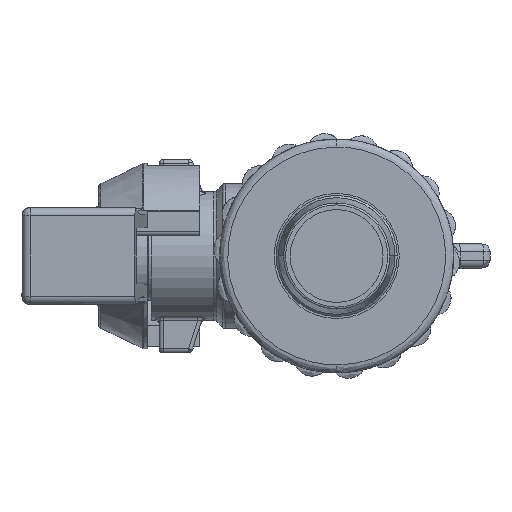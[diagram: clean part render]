
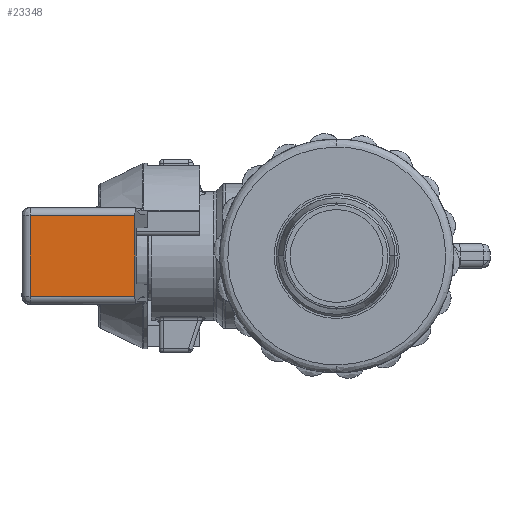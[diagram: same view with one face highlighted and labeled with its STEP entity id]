
A CAD part, left-side view. The second image highlights one B-rep face of the part: STEP entity #23348.
In plain terms, the highlighted planar face has unit normal (-1, 0, 0).
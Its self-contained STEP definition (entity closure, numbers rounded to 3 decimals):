
#300 = DIRECTION ( 'NONE',  ( -1., 0., 0. ) ) ;
#309 = ORIENTED_EDGE ( 'NONE', *, *, #13631, .T. ) ;
#334 = VECTOR ( 'NONE', #11993, 1000. ) ;
#1585 = EDGE_CURVE ( 'NONE', #36426, #8449, #35823, .T. ) ;
#5008 = ORIENTED_EDGE ( 'NONE', *, *, #1585, .T. ) ;
#6395 = CARTESIAN_POINT ( 'NONE',  ( -35., 25., -5. ) ) ;
#7574 = EDGE_CURVE ( 'NONE', #8449, #46658, #48517, .T. ) ;
#8449 = VERTEX_POINT ( 'NONE', #15679 ) ;
#8998 = PLANE ( 'NONE',  #34278 ) ;
#11993 = DIRECTION ( 'NONE',  ( 0., 1., 0. ) ) ;
#12228 = CARTESIAN_POINT ( 'NONE',  ( -35., 38., -5. ) ) ;
#13631 = EDGE_CURVE ( 'NONE', #46658, #52508, #33562, .T. ) ;
#15679 = CARTESIAN_POINT ( 'NONE',  ( -35., 38., 5. ) ) ;
#15900 = EDGE_LOOP ( 'NONE', ( #25310, #5008, #51578, #309 ) ) ;
#18114 = VECTOR ( 'NONE', #25542, 1000. ) ;
#21046 = CARTESIAN_POINT ( 'NONE',  ( -35., 25., 0. ) ) ;
#22472 = CARTESIAN_POINT ( 'NONE',  ( -35., 25., 5. ) ) ;
#23348 = ADVANCED_FACE ( 'NONE', ( #45129 ), #8998, .T. ) ;
#23490 = VECTOR ( 'NONE', #33157, 1000. ) ;
#25310 = ORIENTED_EDGE ( 'NONE', *, *, #42589, .F. ) ;
#25542 = DIRECTION ( 'NONE',  ( 0., 0., -1. ) ) ;
#26951 = CARTESIAN_POINT ( 'NONE',  ( -35., 25., 0. ) ) ;
#31430 = DIRECTION ( 'NONE',  ( 0., 0., 1. ) ) ;
#33157 = DIRECTION ( 'NONE',  ( 0., 0., -1. ) ) ;
#33562 = LINE ( 'NONE', #6395, #45319 ) ;
#34278 = AXIS2_PLACEMENT_3D ( 'NONE', #26951, #300, #31430 ) ;
#35823 = LINE ( 'NONE', #56305, #334 ) ;
#36426 = VERTEX_POINT ( 'NONE', #22472 ) ;
#42589 = EDGE_CURVE ( 'NONE', #36426, #52508, #43132, .T. ) ;
#43132 = LINE ( 'NONE', #21046, #18114 ) ;
#45129 = FACE_OUTER_BOUND ( 'NONE', #15900, .T. ) ;
#45319 = VECTOR ( 'NONE', #50911, 1000. ) ;
#46658 = VERTEX_POINT ( 'NONE', #12228 ) ;
#46694 = CARTESIAN_POINT ( 'NONE',  ( -35., 25., -5. ) ) ;
#48517 = LINE ( 'NONE', #55235, #23490 ) ;
#50911 = DIRECTION ( 'NONE',  ( 0., -1., 0. ) ) ;
#51578 = ORIENTED_EDGE ( 'NONE', *, *, #7574, .T. ) ;
#52508 = VERTEX_POINT ( 'NONE', #46694 ) ;
#55235 = CARTESIAN_POINT ( 'NONE',  ( -35., 38., 0. ) ) ;
#56305 = CARTESIAN_POINT ( 'NONE',  ( -35., 25., 5. ) ) ;
